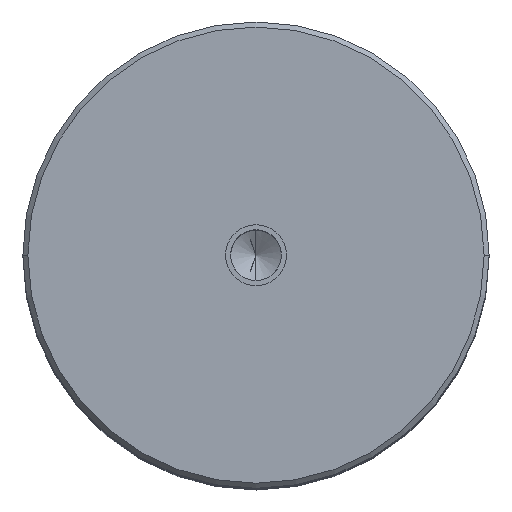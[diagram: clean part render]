
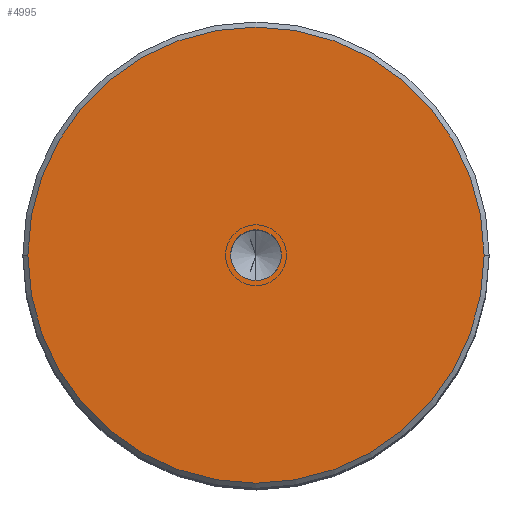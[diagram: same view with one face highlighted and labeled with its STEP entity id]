
A CAD part, top view. The second image highlights one B-rep face of the part: STEP entity #4995.
In plain terms, the highlighted planar face has unit normal (0, 0, 1).
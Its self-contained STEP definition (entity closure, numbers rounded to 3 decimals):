
#148 = CARTESIAN_POINT ( 'NONE',  ( 0., 0., 32. ) ) ;
#290 = PLANE ( 'NONE',  #2199 ) ;
#320 = DIRECTION ( 'NONE',  ( 1., 0., 0. ) ) ;
#528 = AXIS2_PLACEMENT_3D ( 'NONE', #148, #4637, #826 ) ;
#798 = CARTESIAN_POINT ( 'NONE',  ( 0., 0., 32. ) ) ;
#826 = DIRECTION ( 'NONE',  ( 1., 0., 0. ) ) ;
#990 = DIRECTION ( 'NONE',  ( -1., 0., 0. ) ) ;
#1022 = EDGE_CURVE ( 'NONE', #3644, #1811, #5176, .T. ) ;
#1119 = CIRCLE ( 'NONE', #4408, 11.25 ) ;
#1235 = EDGE_CURVE ( 'NONE', #1811, #3644, #3082, .T. ) ;
#1293 = DIRECTION ( 'NONE',  ( 1., 0., 0. ) ) ;
#1305 = DIRECTION ( 'NONE',  ( 0., 0., 1. ) ) ;
#1489 = FACE_BOUND ( 'NONE', #6212, .T. ) ;
#1811 = VERTEX_POINT ( 'NONE', #4105 ) ;
#1966 = ORIENTED_EDGE ( 'NONE', *, *, #1022, .T. ) ;
#2176 = CARTESIAN_POINT ( 'NONE',  ( -11.25, 0., 32. ) ) ;
#2199 = AXIS2_PLACEMENT_3D ( 'NONE', #798, #1305, #320 ) ;
#2414 = DIRECTION ( 'NONE',  ( 0., 0., 1. ) ) ;
#2453 = ORIENTED_EDGE ( 'NONE', *, *, #5583, .T. ) ;
#2536 = AXIS2_PLACEMENT_3D ( 'NONE', #3761, #5748, #1293 ) ;
#2816 = CARTESIAN_POINT ( 'NONE',  ( -1.25, 0., 32. ) ) ;
#3025 = EDGE_CURVE ( 'NONE', #3997, #4431, #1119, .T. ) ;
#3082 = CIRCLE ( 'NONE', #528, 1.25 ) ;
#3160 = EDGE_LOOP ( 'NONE', ( #2453, #4200 ) ) ;
#3420 = CARTESIAN_POINT ( 'NONE',  ( 11.25, 0., 32. ) ) ;
#3433 = CARTESIAN_POINT ( 'NONE',  ( 0., 0., 32. ) ) ;
#3644 = VERTEX_POINT ( 'NONE', #2816 ) ;
#3738 = FACE_OUTER_BOUND ( 'NONE', #3160, .T. ) ;
#3761 = CARTESIAN_POINT ( 'NONE',  ( 0., 0., 32. ) ) ;
#3910 = CIRCLE ( 'NONE', #5395, 11.25 ) ;
#3949 = ORIENTED_EDGE ( 'NONE', *, *, #1235, .T. ) ;
#3975 = DIRECTION ( 'NONE',  ( -1., 0., 0. ) ) ;
#3997 = VERTEX_POINT ( 'NONE', #3420 ) ;
#4105 = CARTESIAN_POINT ( 'NONE',  ( 1.25, 0., 32. ) ) ;
#4200 = ORIENTED_EDGE ( 'NONE', *, *, #3025, .T. ) ;
#4408 = AXIS2_PLACEMENT_3D ( 'NONE', #4954, #5971, #3975 ) ;
#4431 = VERTEX_POINT ( 'NONE', #2176 ) ;
#4637 = DIRECTION ( 'NONE',  ( 0., 0., -1. ) ) ;
#4954 = CARTESIAN_POINT ( 'NONE',  ( 0., 0., 32. ) ) ;
#4995 = ADVANCED_FACE ( 'NONE', ( #1489, #3738 ), #290, .T. ) ;
#5176 = CIRCLE ( 'NONE', #2536, 1.25 ) ;
#5395 = AXIS2_PLACEMENT_3D ( 'NONE', #3433, #2414, #990 ) ;
#5583 = EDGE_CURVE ( 'NONE', #4431, #3997, #3910, .T. ) ;
#5748 = DIRECTION ( 'NONE',  ( 0., 0., -1. ) ) ;
#5971 = DIRECTION ( 'NONE',  ( 0., 0., 1. ) ) ;
#6212 = EDGE_LOOP ( 'NONE', ( #3949, #1966 ) ) ;
